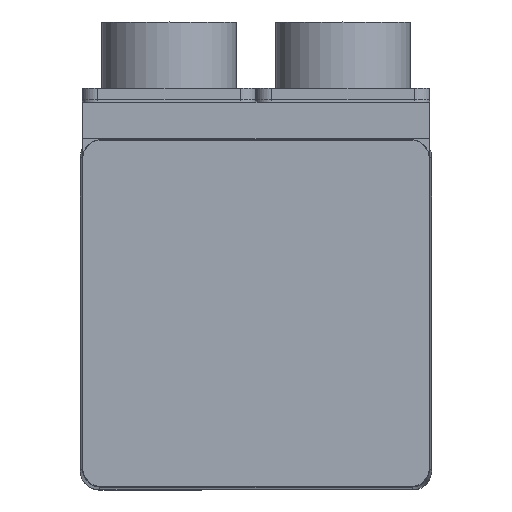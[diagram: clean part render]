
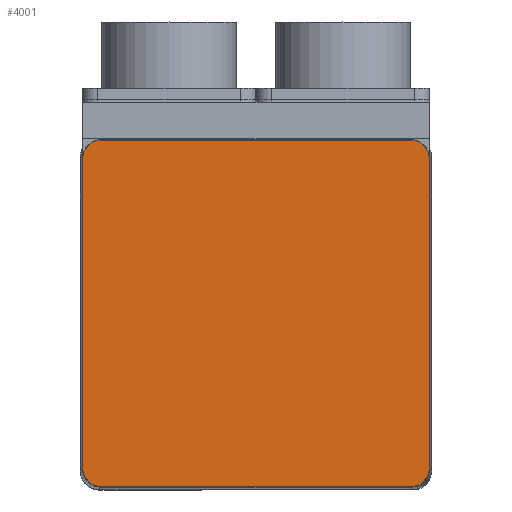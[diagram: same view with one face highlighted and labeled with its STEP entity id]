
A CAD part, top view. The second image highlights one B-rep face of the part: STEP entity #4001.
In plain terms, the highlighted planar face has unit normal (0, 0, 1).
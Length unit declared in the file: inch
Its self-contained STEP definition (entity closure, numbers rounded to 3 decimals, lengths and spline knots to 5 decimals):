
#3899=CARTESIAN_POINT('',(-1.0055,-1.125,4.636));
#3900=VERTEX_POINT('',#3899);
#3901=CARTESIAN_POINT('',(-1.125,-1.0055,4.636));
#3902=VERTEX_POINT('',#3901);
#3903=CARTESIAN_POINT('',(-1.0055,-1.0055,4.636));
#3904=DIRECTION('',(0.0,0.0,-1.));
#3905=DIRECTION('',(-0.707,-0.707,0.0));
#3906=AXIS2_PLACEMENT_3D('',#3903,#3904,#3905);
#3907=CIRCLE('',#3906,0.1195);
#3908=EDGE_CURVE('',#3900,#3902,#3907,.T.);
#3936=CARTESIAN_POINT('',(0.,0.,4.636));
#3937=DIRECTION('',(0.0,0.0,1.0));
#3938=DIRECTION('',(1.0,0.0,0.0));
#3939=AXIS2_PLACEMENT_3D('',#3936,#3937,#3938);
#3940=PLANE('',#3939);
#3941=ORIENTED_EDGE('',*,*,#3908,.F.);
#3942=CARTESIAN_POINT('',(1.0055,-1.125,4.636));
#3943=VERTEX_POINT('',#3942);
#3944=CARTESIAN_POINT('',(1.0055,-1.125,4.636));
#3945=DIRECTION('',(-1.0,0.0,0.0));
#3946=VECTOR('',#3945,2.011);
#3947=LINE('',#3944,#3946);
#3948=EDGE_CURVE('',#3943,#3900,#3947,.T.);
#3949=ORIENTED_EDGE('',*,*,#3948,.F.);
#3950=CARTESIAN_POINT('',(1.125,-1.0055,4.636));
#3951=VERTEX_POINT('',#3950);
#3952=CARTESIAN_POINT('',(1.0055,-1.0055,4.636));
#3953=DIRECTION('',(0.0,0.0,-1.));
#3954=DIRECTION('',(0.707,-0.707,0.0));
#3955=AXIS2_PLACEMENT_3D('',#3952,#3953,#3954);
#3956=CIRCLE('',#3955,0.1195);
#3957=EDGE_CURVE('',#3951,#3943,#3956,.T.);
#3958=ORIENTED_EDGE('',*,*,#3957,.F.);
#3959=CARTESIAN_POINT('',(1.125,1.0055,4.636));
#3960=VERTEX_POINT('',#3959);
#3961=CARTESIAN_POINT('',(1.125,1.0055,4.636));
#3962=DIRECTION('',(0.0,-1.0,0.0));
#3963=VECTOR('',#3962,2.011);
#3964=LINE('',#3961,#3963);
#3965=EDGE_CURVE('',#3960,#3951,#3964,.T.);
#3966=ORIENTED_EDGE('',*,*,#3965,.F.);
#3967=CARTESIAN_POINT('',(1.0055,1.125,4.636));
#3968=VERTEX_POINT('',#3967);
#3969=CARTESIAN_POINT('',(1.0055,1.0055,4.636));
#3970=DIRECTION('',(0.0,0.0,-1.));
#3971=DIRECTION('',(0.707,0.707,0.0));
#3972=AXIS2_PLACEMENT_3D('',#3969,#3970,#3971);
#3973=CIRCLE('',#3972,0.1195);
#3974=EDGE_CURVE('',#3968,#3960,#3973,.T.);
#3975=ORIENTED_EDGE('',*,*,#3974,.F.);
#3976=CARTESIAN_POINT('',(-1.0055,1.125,4.636));
#3977=VERTEX_POINT('',#3976);
#3978=CARTESIAN_POINT('',(-1.0055,1.125,4.636));
#3979=DIRECTION('',(1.0,0.0,0.0));
#3980=VECTOR('',#3979,2.011);
#3981=LINE('',#3978,#3980);
#3982=EDGE_CURVE('',#3977,#3968,#3981,.T.);
#3983=ORIENTED_EDGE('',*,*,#3982,.F.);
#3984=CARTESIAN_POINT('',(-1.125,1.0055,4.636));
#3985=VERTEX_POINT('',#3984);
#3986=CARTESIAN_POINT('',(-1.0055,1.0055,4.636));
#3987=DIRECTION('',(0.0,0.0,-1.));
#3988=DIRECTION('',(-0.707,0.707,0.0));
#3989=AXIS2_PLACEMENT_3D('',#3986,#3987,#3988);
#3990=CIRCLE('',#3989,0.1195);
#3991=EDGE_CURVE('',#3985,#3977,#3990,.T.);
#3992=ORIENTED_EDGE('',*,*,#3991,.F.);
#3993=CARTESIAN_POINT('',(-1.125,-1.0055,4.636));
#3994=DIRECTION('',(0.0,1.0,0.0));
#3995=VECTOR('',#3994,2.011);
#3996=LINE('',#3993,#3995);
#3997=EDGE_CURVE('',#3902,#3985,#3996,.T.);
#3998=ORIENTED_EDGE('',*,*,#3997,.F.);
#3999=EDGE_LOOP('',(#3941,#3949,#3958,#3966,#3975,#3983,#3992,#3998));
#4000=FACE_OUTER_BOUND('',#3999,.T.);
#4001=ADVANCED_FACE('',(#4000),#3940,.T.);
